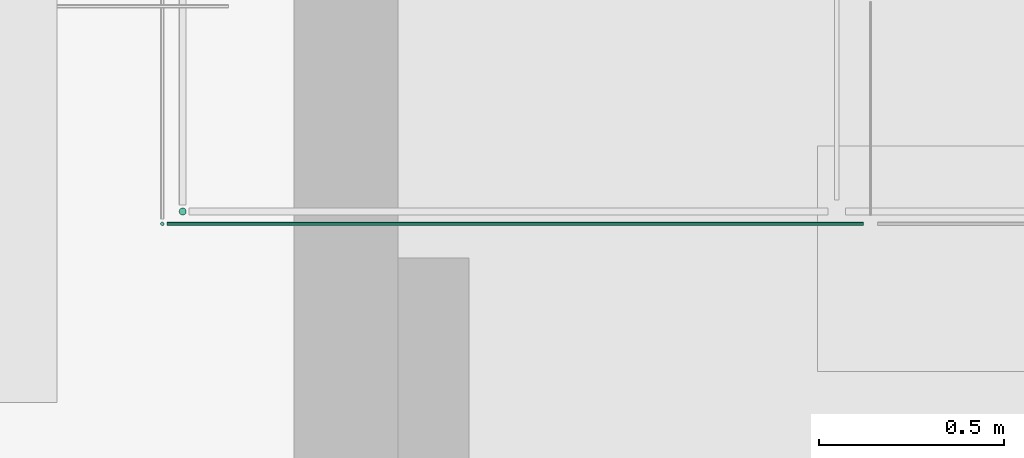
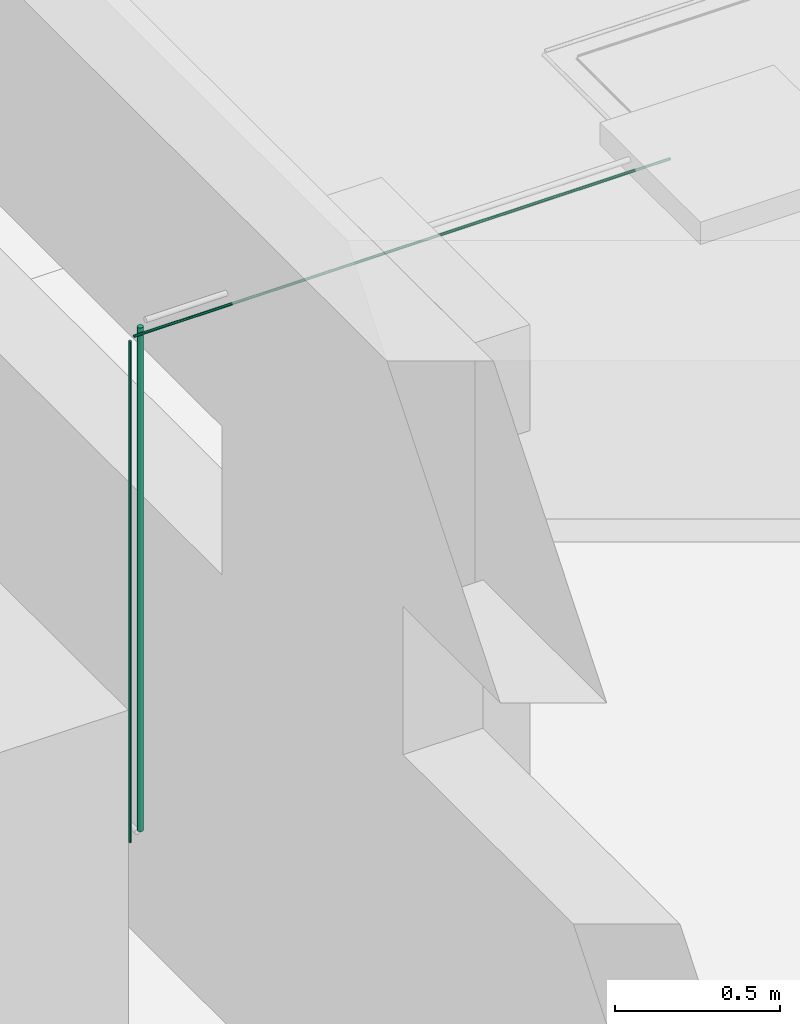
# One storey, part 7 of 22: 3 flow segments.
"""IFC2X3 building model written with IfcOpenShell, lengths in millimetres."""

from ifc_helpers import new_model, entity, si_unit, converted_unit, derived_unit, direction, frame, origin, origin_2d_with_axis, place, context, subcontext, project, spatial, circle, extrude, source, transform, mapped, material, type_object, type_shapes, element, save


model = new_model("IFC2X3")

# Units and contexts
model_context = context("Model", 3, precision=0.01, world=origin(), true_north=direction((6.123031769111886e-17, 1.0)))
body_context = subcontext(model_context, "Body", "Model", "MODEL_VIEW")
ifc_project = project(units=[si_unit("LENGTHUNIT", "METRE", prefix="MILLI"), si_unit("AREAUNIT", "SQUARE_METRE"), si_unit("VOLUMEUNIT", "CUBIC_METRE"), converted_unit("PLANEANGLEUNIT", "DEGREE", entity("IfcRatioMeasure", 0.017453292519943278), si_unit("PLANEANGLEUNIT", "RADIAN"), dimensions=[0, 0, 0, 0, 0, 0, 0]), si_unit("MASSUNIT", "GRAM", prefix="KILO"), derived_unit("MASSDENSITYUNIT", [(si_unit("MASSUNIT", "GRAM", prefix="KILO"), 1), (si_unit("LENGTHUNIT", "METRE"), -3)]), derived_unit("MOMENTOFINERTIAUNIT", [(si_unit("LENGTHUNIT", "METRE"), 4)]), si_unit("TIMEUNIT", "SECOND"), si_unit("FREQUENCYUNIT", "HERTZ"), si_unit("THERMODYNAMICTEMPERATUREUNIT", "DEGREE_CELSIUS"), derived_unit("THERMALTRANSMITTANCEUNIT", [(si_unit("MASSUNIT", "GRAM", prefix="KILO"), 1), (si_unit("THERMODYNAMICTEMPERATUREUNIT", "KELVIN"), -1), (si_unit("TIMEUNIT", "SECOND"), -3)]), derived_unit("VOLUMETRICFLOWRATEUNIT", [(si_unit("LENGTHUNIT", "METRE"), 3), (si_unit("TIMEUNIT", "SECOND"), -1)]), derived_unit("MASSFLOWRATEUNIT", [(si_unit("MASSUNIT", "GRAM", prefix="KILO"), 1), (si_unit("TIMEUNIT", "SECOND"), -1)]), derived_unit("ROTATIONALFREQUENCYUNIT", [(si_unit("TIMEUNIT", "SECOND"), -1)]), si_unit("ELECTRICCURRENTUNIT", "AMPERE"), si_unit("ELECTRICVOLTAGEUNIT", "VOLT"), si_unit("POWERUNIT", "WATT"), si_unit("FORCEUNIT", "NEWTON", prefix="KILO"), si_unit("ILLUMINANCEUNIT", "LUX"), si_unit("LUMINOUSFLUXUNIT", "LUMEN"), si_unit("LUMINOUSINTENSITYUNIT", "CANDELA"), derived_unit("USERDEFINED", [(si_unit("MASSUNIT", "GRAM", prefix="KILO"), -1), (si_unit("LENGTHUNIT", "METRE"), -2), (si_unit("TIMEUNIT", "SECOND"), 3), (si_unit("LUMINOUSFLUXUNIT", "LUMEN"), 1)]), derived_unit("SOUNDPOWERUNIT", [(si_unit("MASSUNIT", "GRAM", prefix="KILO"), 1), (si_unit("LENGTHUNIT", "METRE"), 2), (si_unit("TIMEUNIT", "SECOND"), -3)]), derived_unit("SOUNDPRESSUREUNIT", [(si_unit("MASSUNIT", "GRAM", prefix="KILO"), 1), (si_unit("LENGTHUNIT", "METRE"), -1), (si_unit("TIMEUNIT", "SECOND"), -2)]), derived_unit("LINEARVELOCITYUNIT", [(si_unit("LENGTHUNIT", "METRE"), 1), (si_unit("TIMEUNIT", "SECOND"), -1)]), si_unit("PRESSUREUNIT", "PASCAL"), derived_unit("USERDEFINED", [(si_unit("LENGTHUNIT", "METRE"), -2), (si_unit("MASSUNIT", "GRAM", prefix="KILO"), 1), (si_unit("TIMEUNIT", "SECOND"), -2)]), derived_unit("LINEARFORCEUNIT", [(si_unit("MASSUNIT", "GRAM", prefix="KILO"), 1), (si_unit("LENGTHUNIT", "METRE"), 1), (si_unit("TIMEUNIT", "SECOND"), -2), (si_unit("LENGTHUNIT", "METRE"), -1)]), derived_unit("PLANARFORCEUNIT", [(si_unit("MASSUNIT", "GRAM", prefix="KILO"), 1), (si_unit("LENGTHUNIT", "METRE"), 1), (si_unit("TIMEUNIT", "SECOND"), -2), (si_unit("LENGTHUNIT", "METRE"), -2)])], contexts=[model_context])

# Site, building, storey
site_placement = place(None, origin())
site = spatial("IfcSite", under=ifc_project, at=site_placement, Name="Default", CompositionType="ELEMENT")
building_placement = place(site_placement, origin())
building = spatial("IfcBuilding", under=site, at=building_placement, CompositionType="ELEMENT")
storey_placement = place(building_placement, frame((0.0, 0.0, 3300.0)))
storey = spatial("IfcBuildingStorey", under=building, at=storey_placement, Name="Level 2", CompositionType="ELEMENT", Elevation=3299.99999999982)

# Flow segments
ifc_material = material(Name="<Unnamed>")
pipe_segment_type_1 = type_object("IfcPipeSegmentType", Name="Pipe Types:Standard:Standard : Pipe Types:Standard", PredefinedType="NOTDEFINED", material=ifc_material)
shared_shape_1 = source(origin(), body_context, "Body", "SweptSolid", [
    extrude(circle(Radius=4.76, at=origin_2d_with_axis()), frame((-9768.90211607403, 1545.4722089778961, 5990.0), z_axis=(1.0, 0.0, 0.0), x_axis=(0.0, 1.0, 0.0)), (0.0, 0.0, 1.0), 1881.3933914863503),
])
type_shapes(pipe_segment_type_1, [shared_shape_1])
flow_segment_1_placement = place(storey_placement, frame((0.0, 0.0, -3300.0)))
element("IfcFlowSegment", 1, at=flow_segment_1_placement, inside=storey, type_object=pipe_segment_type_1, material=ifc_material, Name="Pipe Types:Standard:Standard : Pipe Types:Standard:Standard:Standard : Pipe Types:Standard : Pipe Types:Standard:Standard : Pipe Types:Standard", ObjectType="Pipe Types:Standard:Standard : Pipe Types:Standard:Standard:Standard : Pipe Types:Standard : Pipe Types:Standard:Standard : Pipe Types:Standard", context=body_context, shape_type="MappedRepresentation", body=[
    mapped(shared_shape_1, transform((0.0, 0.0, 0.0), scale=1.0)),
])
pipe_segment_type_2 = type_object("IfcPipeSegmentType", Name="Pipe Types:Standard:Standard : Pipe Types:Standard", PredefinedType="NOTDEFINED", material=ifc_material)
shared_shape_2 = source(origin(), body_context, "Body", "SweptSolid", [
    extrude(circle(Radius=4.76, at=origin_2d_with_axis()), frame((-9781.602112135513, 1545.462705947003, 4119.941632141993)), (0.0, 0.0, 1.0), 1857.35836657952),
])
type_shapes(pipe_segment_type_2, [shared_shape_2])
flow_segment_2_placement = place(storey_placement, frame((0.0, 0.0, -3300.0)))
element("IfcFlowSegment", 2, at=flow_segment_2_placement, inside=storey, type_object=pipe_segment_type_2, material=ifc_material, Name="Pipe Types:Standard:Standard : Pipe Types:Standard:Standard:Standard : Pipe Types:Standard : Pipe Types:Standard:Standard : Pipe Types:Standard", ObjectType="Pipe Types:Standard:Standard : Pipe Types:Standard:Standard:Standard : Pipe Types:Standard : Pipe Types:Standard:Standard : Pipe Types:Standard", context=body_context, shape_type="MappedRepresentation", body=[
    mapped(shared_shape_2, transform((0.0, 0.0, 0.0), scale=1.0)),
])
pipe_segment_type_3 = type_object("IfcPipeSegmentType", Name="Pipe Types:Standard:Standard : Pipe Types:Standard", PredefinedType="NOTDEFINED", material=ifc_material)
shared_shape_3 = source(origin(), body_context, "Body", "SweptSolid", [
    extrude(circle(Radius=9.525, at=origin_2d_with_axis()), frame((-9726.603454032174, 1578.5503193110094, 4124.704129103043)), (0.0, 0.0, 1.0), 1867.83336816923),
])
type_shapes(pipe_segment_type_3, [shared_shape_3])
flow_segment_3_placement = place(storey_placement, frame((0.0, 0.0, -3300.0)))
element("IfcFlowSegment", 3, at=flow_segment_3_placement, inside=storey, type_object=pipe_segment_type_3, material=ifc_material, Name="Pipe Types:Standard:Standard : Pipe Types:Standard:Standard:Standard : Pipe Types:Standard : Pipe Types:Standard:Standard : Pipe Types:Standard", ObjectType="Pipe Types:Standard:Standard : Pipe Types:Standard:Standard:Standard : Pipe Types:Standard : Pipe Types:Standard:Standard : Pipe Types:Standard", context=body_context, shape_type="MappedRepresentation", body=[
    mapped(shared_shape_3, transform((0.0, 0.0, 0.0), scale=1.0)),
])

save(model, "model.ifc")
